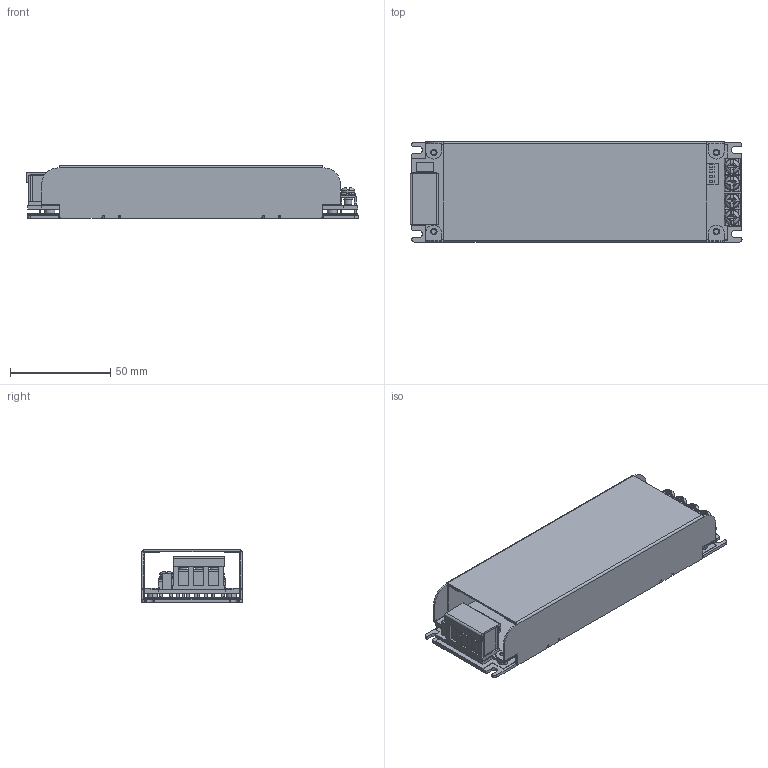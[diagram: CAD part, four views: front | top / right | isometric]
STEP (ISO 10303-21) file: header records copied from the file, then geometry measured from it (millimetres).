
FILE_DESCRIPTION((''),'2;1');
FILE_NAME('UDP-300_ASM','2026-10-19T17:01:15',('shalinice'),(''),'CREO PARAMETRIC BY PTC INC, 2017110','CREO PARAMETRIC BY PTC INC, 2017110','');
FILE_SCHEMA(('AUTOMOTIVE_DESIGN { 1 0 10303 214 1 1 1 1 }'));
Length unit declared in the file: millimetre
Products named in the file (6): DG28C; DG28C-COVER; DG28C_ASM; UDP-300-MYLAR; UDP-300A-R0X; UDP-300_ASM
Assembly tree (5 placements, depth 3):
  UDP-300_ASM
    DG28C_ASM
      DG28C
      DG28C-COVER
    UDP-300-MYLAR
    UDP-300A-R0X
Bounding box: 165.91 x 50 x 26 mm (x, y, z)
Volume: 43959.7 mm3; surface area: 91533.2 mm2
Topology: 4 solids, 4 shells, 1035 faces, 2808 edges, 1772 vertices
Faces by surface type: plane 741, cylinder 216, torus 44, cone 32, bspline 2
Entity records: 40334 total; most frequent: CARTESIAN_POINT 6561, ORIENTED_EDGE 5616, DIRECTION 5376, EDGE_CURVE 2808, VECTOR 1916, LINE 1916, VERTEX_POINT 1772, AXIS2_PLACEMENT_3D 1730
